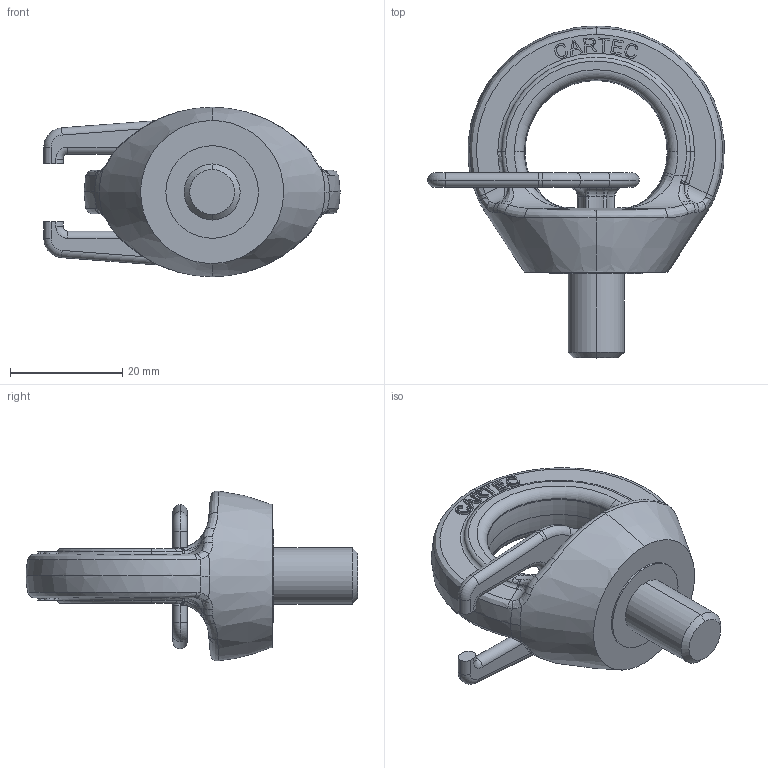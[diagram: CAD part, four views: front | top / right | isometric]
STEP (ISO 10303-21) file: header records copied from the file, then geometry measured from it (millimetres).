
FILE_DESCRIPTION(('STEP AP214'),'1');
FILE_NAME('c807ht10.stp','2017-03-27T13:21:58',('TraceParts'),('TraceParts S.A.'),'Spatial InterOp 3D',' ',' ');
FILE_SCHEMA(('automotive_design'));
Length unit declared in the file: millimetre
Products named in the file (3): c807ht10_1; c807ht10_2; c807ht10_3
Bounding box: 52.83 x 59.18 x 30.27 mm (x, y, z)
Volume: 17290.4 mm3; surface area: 8561.4 mm2
Topology: 3 solids, 3 shells, 417 faces, 1068 edges, 667 vertices
Faces by surface type: bspline 146, plane 128, torus 68, cylinder 67, cone 8
Entity records: 24537 total; most frequent: CARTESIAN_POINT 11652, ORIENTED_EDGE 2120, DIRECTION 1818, EDGE_CURVE 1060, AXIS2_PLACEMENT_3D 698, VERTEX_POINT 667, EDGE_LOOP 439, LINE 422
